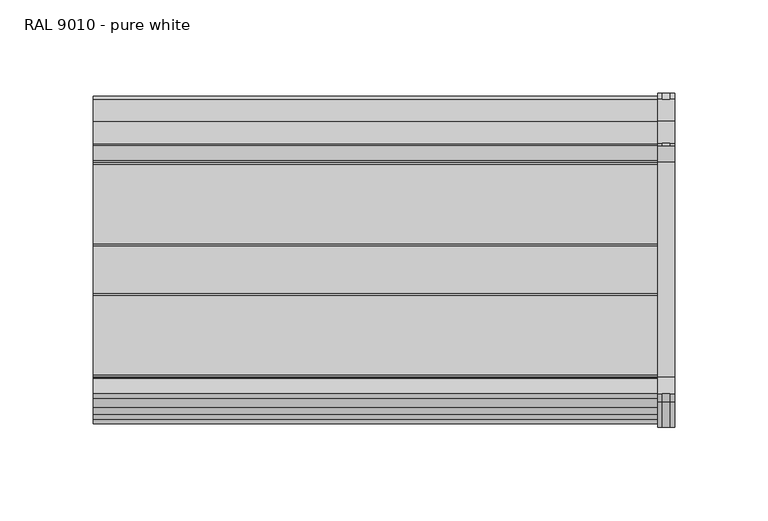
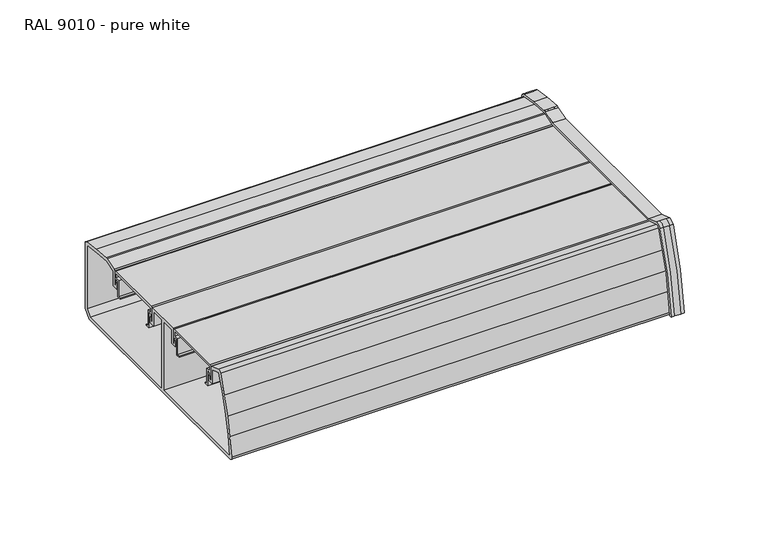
"""IFC4 building model written with IfcOpenShell, lengths in millimetres: proxy geometry, Electrical_Installations_Hager_GBD-Curved-Lid-End-Cap : RAL 9010 - pure white."""

from ifc_helpers import new_model, si_unit, point, frame, frame_2d, origin, place, context, project, spatial, polyline, circle_curve, trimmed, segment, composite_curve, outline, extrude, source, transform, mapped, element, save
from ifc_brep_helpers import plane_surface, cylinder_surface, revolved_surface, advanced_brep


def ral_9010_pure_white_f4a3dc08(model_context):
    return source(origin(), model_context, "Body", "SolidModel", [
        extrude(outline(composite_curve([segment(polyline([(-56.2971023, 12.5), (56.2971023, 12.5)]), True, "CONTINUOUS"), segment(trimmed(circle_curve(frame_2d((56.2971023, 11.6099434)), 0.8900566), [point((56.2971023, 12.5))], [point((57.1568309, 11.840307))], False, "CARTESIAN"), True, "CONTINUOUS"), segment(polyline([(57.1568309, 11.840307), (61.5409562, -4.5214711), (64.3769076, -20.8259828)]), True, "CONTINUOUS"), segment(trimmed(circle_curve(frame_2d((63.389468, -20.9977347)), 1.0022653), [point((64.3769076, -20.8259828))], [point((63.389468, -22.0))], False, "CARTESIAN"), True, "CONTINUOUS"), segment(polyline([(63.389468, -22.0), (-63.389468, -22.0)]), True, "CONTINUOUS"), segment(trimmed(circle_curve(frame_2d((-63.389468, -20.9977347)), 1.0022653), [point((-63.389468, -22.0))], [point((-64.3769076, -20.8259828))], False, "CARTESIAN"), True, "CONTINUOUS"), segment(polyline([(-64.3769076, -20.8259828), (-61.5409562, -4.5214711), (-57.1568309, 11.840307)]), True, "CONTINUOUS"), segment(trimmed(circle_curve(frame_2d((-56.2971023, 11.6099434)), 0.8900566), [point((-57.1568309, 11.840307))], [point((-56.2971023, 12.5))], False, "CARTESIAN"), True, "CONTINUOUS")], self_intersect=False)), frame((308.3503443, 0.0, 0.0), z_axis=(1.0, 0.0, 0.0), x_axis=(0.0, 1.0, 0.0)), (0.0, 0.0, 1.0), 2.5),
        advanced_brep(
        [(304.3659693, 82.4790938, -27.0), (304.3659693, -87.950009, -27.0), (304.3659693, -74.7139057, 28.7218397), (304.3659693, -71.8616711, 30.0629995), (304.3659693, -63.0502646, 27.2), (304.3659693, 52.4374875, 27.2), (304.3659693, 61.1100703, 30.017893), (304.3659693, 62.6440579, 30.1926688), (304.3659693, 74.1080217, 29.1897019), (304.3659693, 85.7835434, 27.4641372), (304.3659693, 87.5716104, 25.3259929), (304.3659693, 87.5716104, -21.9074834), (308.3503443, -87.950009, -27.0), (308.3503443, 82.4790938, -27.0), (308.3503443, 87.5716104, -21.9074834), (308.3503443, 87.5716104, 25.3259929), (308.3503443, 85.7835434, 27.4641372), (308.3503443, 74.1080217, 29.1897019), (308.3503443, 62.6440579, 30.1926688), (308.3503443, 61.1100703, 30.017893), (308.3503443, 52.4374875, 27.2), (308.3503443, -63.0502646, 27.2), (308.3503443, -71.8616711, 30.0629995), (308.3503443, -74.7139057, 28.7218397), (304.3659693, 86.0170743, 28.9997666), (308.3503443, 86.0170743, 28.9997666), (308.3503443, 89.0716104, 25.3713094), (304.3659693, 89.0716104, 25.3713094), (310.8503443, 89.0716104, 25.3713094), (310.8503443, 89.0716104, -22.0), (301.8503443, 89.0716104, -22.0), (301.8503443, 89.0716104, 25.3713094), (310.8503443, 84.0716104, -27.0), (301.8503443, 84.0716104, -27.0), (310.8503443, 82.4790938, -27.0), (310.8503443, -87.950009, -27.0), (310.8503443, -89.4534138, -27.0), (308.3503443, -89.4534138, -27.0), (304.3659693, -89.4534138, -27.0), (301.8503443, -89.4534138, -27.0), (301.8503443, -87.950009, -27.0), (301.8503443, 82.4790938, -27.0), (308.3503443, -76.0707812, 29.3458662), (304.3659693, -76.0707812, 29.3458662), (308.3503443, -71.4543472, 31.5078453), (304.3659693, -71.4543472, 31.5078453), (310.8503443, -71.4543472, 31.5078453), (310.8503443, -62.8126879, 28.7), (301.8503443, -62.8126879, 28.7), (301.8503443, -71.4543472, 31.5078453), (310.8503443, 52.1999109, 28.7), (301.8503443, 52.1999109, 28.7), (310.8503443, 60.8066211, 31.4964897), (308.3503443, 60.8066211, 31.4964897), (304.3659693, 60.8066211, 31.4964897), (301.8503443, 60.8066211, 31.4964897), (308.3503443, 62.4516475, 31.6839168), (304.3659693, 62.4516475, 31.6839168), (310.8503443, 62.4516475, 31.6839168), (310.8503443, 74.2844253, 30.6486828), (301.8503443, 74.2844253, 30.6486828), (301.8503443, 62.4516475, 31.6839168), (301.8503443, 86.0170743, 28.9997666), (310.8503443, 86.0170743, 28.9997666), (301.8503443, 87.5716104, -21.9074834), (301.8503443, 87.5716104, 25.3259929), (301.8503443, 85.7835434, 27.4641372), (301.8503443, 74.1080217, 29.1897019), (301.8503443, 62.6440579, 30.1926688), (301.8503443, 61.1100703, 30.017893), (301.8503443, 52.4374875, 27.2), (301.8503443, -63.0502646, 27.2), (301.8503443, -71.8616711, 30.0629995), (301.8503443, -74.7139057, 28.7218397), (301.8503443, -76.0707812, 29.3458662), (310.8503443, -76.0707812, 29.3458662), (310.8503443, -74.7139057, 28.7218397), (310.8503443, -71.8616711, 30.0629995), (310.8503443, -63.0502646, 27.2), (310.8503443, 52.4374875, 27.2), (310.8503443, 61.1100703, 30.017893), (310.8503443, 62.6440579, 30.1926688), (310.8503443, 74.1080217, 29.1897019), (310.8503443, 85.7835434, 27.4641372), (310.8503443, 87.5716104, 25.3259929), (310.8503443, 87.5716104, -21.9074834)],
        [
            (0, 1),
            (1, 2, circle_curve(frame((304.3659693, 110.3369957, -44.6679083), z_axis=(-1.0, 0.0, 0.0), x_axis=(0.0, 1.0, 0.0)), 199.0725777)),
            (2, 3, circle_curve(frame((304.3659693, -72.5732824, 27.8728851), z_axis=(-1.0, 0.0, 0.0), x_axis=(0.0, 1.0, 0.0)), 2.3028226)),
            (3, 4),
            (4, 5),
            (5, 6),
            (6, 7, circle_curve(frame((304.3659693, 62.3065893, 26.3353861), z_axis=(-1.0, 0.0, 0.0), x_axis=(0.0, 1.0, 0.0)), 3.8720169)),
            (7, 8),
            (8, 9),
            (9, 10, circle_curve(frame((304.3659693, 85.3991961, 25.3259929), z_axis=(-1.0, 0.0, 0.0), x_axis=(0.0, 1.0, 0.0)), 2.1724143)),
            (10, 11),
            (11, 0),
            (12, 13),
            (13, 14),
            (14, 15),
            (15, 16, circle_curve(frame((308.3503443, 85.3991961, 25.3259929), z_axis=(1.0, 0.0, 0.0), x_axis=(0.0, 1.0, 0.0)), 2.1724143)),
            (16, 17),
            (17, 18),
            (18, 19, circle_curve(frame((308.3503443, 62.3065893, 26.3353861), z_axis=(1.0, 0.0, 0.0), x_axis=(0.0, 1.0, 0.0)), 3.8720169)),
            (19, 20),
            (20, 21),
            (21, 22),
            (22, 23, circle_curve(frame((308.3503443, -72.5732824, 27.8728851), z_axis=(1.0, 0.0, 0.0), x_axis=(0.0, 1.0, 0.0)), 2.3028226)),
            (23, 12, circle_curve(frame((308.3503443, 110.3369957, -44.6679083), z_axis=(1.0, 0.0, 0.0), x_axis=(0.0, 1.0, 0.0)), 199.0725777)),
            (24, 25),
            (25, 26, circle_curve(frame((308.3503443, 85.3892358, 25.3713094), z_axis=(-1.0, 0.0, 0.0), x_axis=(0.0, 1.0, 0.0)), 3.6823746)),
            (26, 27),
            (27, 24, circle_curve(frame((304.3659693, 85.3892358, 25.3713094), z_axis=(1.0, 0.0, 0.0), x_axis=(0.0, 1.0, 0.0)), 3.6823746)),
            (26, 28),
            (28, 29),
            (29, 30),
            (30, 31),
            (31, 27),
            (29, 32),
            (32, 33),
            (33, 30),
            (32, 34),
            (34, 13),
            (12, 35),
            (35, 36),
            (36, 37),
            (37, 38),
            (38, 39),
            (39, 40),
            (40, 1),
            (0, 41),
            (41, 33),
            (37, 42, circle_curve(frame((308.3503443, 106.8832578, -43.8694858), z_axis=(-1.0, 0.0, 0.0), x_axis=(0.0, 1.0, 0.0)), 197.0600623)),
            (42, 43),
            (43, 38, circle_curve(frame((304.3659693, 106.8832578, -43.8694858), z_axis=(1.0, 0.0, 0.0), x_axis=(0.0, 1.0, 0.0)), 197.0600623)),
            (42, 44, circle_curve(frame((308.3503443, -72.607181, 27.9597874), z_axis=(-1.0, 0.0, 0.0), x_axis=(0.0, 1.0, 0.0)), 3.7306488)),
            (44, 45),
            (45, 43, circle_curve(frame((304.3659693, -72.607181, 27.9597874), z_axis=(1.0, 0.0, 0.0), x_axis=(0.0, 1.0, 0.0)), 3.7306488)),
            (44, 46),
            (46, 47),
            (47, 48),
            (48, 49),
            (49, 45),
            (47, 50),
            (50, 51),
            (51, 48),
            (50, 52),
            (52, 53),
            (53, 54),
            (54, 55),
            (55, 51),
            (53, 56, circle_curve(frame((308.3503443, 62.0897511, 27.5474216), z_axis=(-1.0, 0.0, 0.0), x_axis=(0.0, 1.0, 0.0)), 4.1522959)),
            (56, 57),
            (57, 54, circle_curve(frame((304.3659693, 62.0897511, 27.5474216), z_axis=(1.0, 0.0, 0.0), x_axis=(0.0, 1.0, 0.0)), 4.1522959)),
            (56, 58),
            (58, 59),
            (59, 60),
            (60, 61),
            (61, 57),
            (24, 62),
            (62, 60),
            (59, 63),
            (63, 25),
            (41, 64),
            (64, 65),
            (65, 66, circle_curve(frame((301.8503443, 85.3991961, 25.3259929), z_axis=(1.0, 0.0, 0.0), x_axis=(0.0, 1.0, 0.0)), 2.1724143)),
            (66, 67),
            (67, 68),
            (68, 69, circle_curve(frame((301.8503443, 62.3065893, 26.3353861), z_axis=(1.0, 0.0, 0.0), x_axis=(0.0, 1.0, 0.0)), 3.8720169)),
            (69, 70),
            (70, 71),
            (71, 72),
            (72, 73, circle_curve(frame((301.8503443, -72.5732824, 27.8728851), z_axis=(1.0, 0.0, 0.0), x_axis=(0.0, 1.0, 0.0)), 2.3028226)),
            (73, 40, circle_curve(frame((301.8503443, 110.3369957, -44.6679083), z_axis=(1.0, 0.0, 0.0), x_axis=(0.0, 1.0, 0.0)), 199.0725777)),
            (39, 74, circle_curve(frame((301.8503443, 106.8832578, -43.8694858), z_axis=(-1.0, 0.0, 0.0), x_axis=(0.0, 1.0, 0.0)), 197.0600623)),
            (74, 49, circle_curve(frame((301.8503443, -72.607181, 27.9597874), z_axis=(-1.0, 0.0, 0.0), x_axis=(0.0, 1.0, 0.0)), 3.7306488)),
            (55, 61, circle_curve(frame((301.8503443, 62.0897511, 27.5474216), z_axis=(-1.0, 0.0, 0.0), x_axis=(0.0, 1.0, 0.0)), 4.1522959)),
            (62, 31, circle_curve(frame((301.8503443, 85.3892358, 25.3713094), z_axis=(-1.0, 0.0, 0.0), x_axis=(0.0, 1.0, 0.0)), 3.6823746)),
            (28, 63, circle_curve(frame((310.8503443, 85.3892358, 25.3713094), z_axis=(1.0, 0.0, 0.0), x_axis=(0.0, 1.0, 0.0)), 3.6823746)),
            (58, 52, circle_curve(frame((310.8503443, 62.0897511, 27.5474216), z_axis=(1.0, 0.0, 0.0), x_axis=(0.0, 1.0, 0.0)), 4.1522959)),
            (46, 75, circle_curve(frame((310.8503443, -72.607181, 27.9597874), z_axis=(1.0, 0.0, 0.0), x_axis=(0.0, 1.0, 0.0)), 3.7306488)),
            (75, 36, circle_curve(frame((310.8503443, 106.8832578, -43.8694858), z_axis=(1.0, 0.0, 0.0), x_axis=(0.0, 1.0, 0.0)), 197.0600623)),
            (35, 76, circle_curve(frame((310.8503443, 110.3369957, -44.6679083), z_axis=(-1.0, 0.0, 0.0), x_axis=(0.0, 1.0, 0.0)), 199.0725777)),
            (76, 77, circle_curve(frame((310.8503443, -72.5732824, 27.8728851), z_axis=(-1.0, 0.0, 0.0), x_axis=(0.0, 1.0, 0.0)), 2.3028226)),
            (77, 78),
            (78, 79),
            (79, 80),
            (80, 81, circle_curve(frame((310.8503443, 62.3065893, 26.3353861), z_axis=(-1.0, 0.0, 0.0), x_axis=(0.0, 1.0, 0.0)), 3.8720169)),
            (81, 82),
            (82, 83),
            (83, 84, circle_curve(frame((310.8503443, 85.3991961, 25.3259929), z_axis=(-1.0, 0.0, 0.0), x_axis=(0.0, 1.0, 0.0)), 2.1724143)),
            (84, 85),
            (85, 34),
            (11, 64),
            (85, 14),
            (10, 65),
            (84, 15),
            (9, 66),
            (83, 16),
            (70, 5),
            (4, 71),
            (78, 21),
            (20, 79),
            (3, 72),
            (77, 22),
            (2, 73),
            (76, 23),
            (43, 74),
            (75, 42),
            (8, 67),
            (82, 17),
            (7, 68),
            (81, 18),
            (6, 69),
            (80, 19),
        ],
        [
            plane_surface(frame((304.3659693, 0.0, 0.0), z_axis=(-1.0, 0.0, 0.0), x_axis=(0.0, 0.0, 1.0))),
            plane_surface(frame((308.3503443, 0.0, 0.0), z_axis=(1.0, 0.0, 0.0), x_axis=(0.0, 0.0, 1.0))),
            cylinder_surface(frame((304.3659693, 85.3892358, 25.3713094), z_axis=(-1.0, 0.0, 0.0), x_axis=(0.0, 1.0, 0.0)), 3.6823746),
            plane_surface(frame((304.3659693, 89.0716104, 25.3713094), z_axis=(0.0, 1.0, 0.0), x_axis=(1.0, 0.0, 0.0))),
            plane_surface(frame((304.3659693, 89.0716104, -22.0), z_axis=(0.0, 0.707106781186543, -0.707106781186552), x_axis=(1.0, 0.0, 0.0))),
            plane_surface(frame((304.3659693, 84.0716104, -27.0), z_axis=(0.0, 0.0, -1.0), x_axis=(1.0, 0.0, 0.0))),
            cylinder_surface(frame((304.3659693, 106.8832578, -43.8694858), z_axis=(-1.0, 0.0, 0.0), x_axis=(0.0, 1.0, 0.0)), 197.0600623),
            cylinder_surface(frame((304.3659693, -72.607181, 27.9597874), z_axis=(-1.0, 0.0, 0.0), x_axis=(0.0, 1.0, 0.0)), 3.7306488),
            plane_surface(frame((304.3659693, -71.4543472, 31.5078453), z_axis=(0.0, 0.30901699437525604, 0.9510565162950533), x_axis=(1.0, 0.0, 0.0))),
            plane_surface(frame((304.3659693, -62.8126879, 28.7), z_axis=(0.0, 0.0, 1.0), x_axis=(1.0, 0.0, 0.0))),
            plane_surface(frame((304.3659693, 52.1999109, 28.7), z_axis=(0.0, -0.30901699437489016, 0.9510565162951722), x_axis=(1.0, 0.0, 0.0))),
            cylinder_surface(frame((304.3659693, 62.0897511, 27.5474216), z_axis=(-1.0, 0.0, 0.0), x_axis=(0.0, 1.0, 0.0)), 4.1522959),
            plane_surface(frame((304.3659693, 62.4516475, 31.6839168), z_axis=(0.0, 0.0871557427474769, 0.9961946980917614), x_axis=(1.0, 0.0, 0.0))),
            plane_surface(frame((304.3659693, 74.2844253, 30.6486828), z_axis=(0.0, 0.1391731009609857, 0.990268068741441), x_axis=(1.0, 0.0, 0.0))),
            plane_surface(frame((301.8503443, 0.0, 0.0), z_axis=(-1.0, 0.0, 0.0), x_axis=(0.0, 0.0, 1.0))),
            plane_surface(frame((310.8503443, 0.0, 0.0), z_axis=(1.0, 0.0, 0.0), x_axis=(0.0, 0.0, 1.0))),
            cylinder_surface(frame((301.8503443, 85.3892358, 25.3713094), z_axis=(-1.0, 0.0, 0.0), x_axis=(0.0, 1.0, 0.0)), 3.6823746),
            plane_surface(frame((301.8503443, 82.4790938, -27.0), z_axis=(0.0, -0.7071067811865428, 0.7071067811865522), x_axis=(1.0, 0.0, 0.0))),
            plane_surface(frame((301.8503443, 87.5716104, -21.9074834), z_axis=(0.0, -1.0, 0.0), x_axis=(1.0, 0.0, 0.0))),
            revolved_surface(polyline([(304.3659693, 87.5716104, 25.3259929), (301.8503443, 87.5716104, 25.3259929)]), (301.8503443, 85.3991961, 25.3259929), (1.0, 0.0, 0.0)),
            revolved_surface(polyline([(310.8503443, 87.5716104, 25.3259929), (308.3503443, 87.5716104, 25.3259929)]), (301.8503443, 85.3991961, 25.3259929), (1.0, 0.0, 0.0)),
            plane_surface(frame((301.8503443, 52.4374875, 27.2), z_axis=(0.0, 0.0, -1.0), x_axis=(1.0, 0.0, 0.0))),
            plane_surface(frame((301.8503443, -63.0502646, 27.2), z_axis=(0.0, -0.3090169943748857, -0.9510565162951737), x_axis=(1.0, 0.0, 0.0))),
            revolved_surface(polyline([(304.3659693, -70.2704598, 27.8728851), (301.8503443, -70.2704598, 27.8728851)]), (301.8503443, -72.5732824, 27.8728851), (1.0, 0.0, 0.0)),
            revolved_surface(polyline([(310.8503443, -70.2704598, 27.8728851), (308.3503443, -70.2704598, 27.8728851)]), (301.8503443, -72.5732824, 27.8728851), (1.0, 0.0, 0.0)),
            revolved_surface(polyline([(304.3659693, 309.4095734, -44.6679083), (301.8503443, 309.4095734, -44.6679083)]), (301.8503443, 110.3369957, -44.6679083), (1.0, 0.0, 0.0)),
            revolved_surface(polyline([(310.8503443, 309.4095734, -44.6679083), (308.3503443, 309.4095734, -44.6679083)]), (301.8503443, 110.3369957, -44.6679083), (1.0, 0.0, 0.0)),
            cylinder_surface(frame((301.8503443, 106.8832578, -43.8694858), z_axis=(-1.0, 0.0, 0.0), x_axis=(0.0, 1.0, 0.0)), 197.0600623),
            cylinder_surface(frame((301.8503443, -72.607181, 27.9597874), z_axis=(-1.0, 0.0, 0.0), x_axis=(0.0, 1.0, 0.0)), 3.7306488),
            plane_surface(frame((301.8503443, 85.7835434, 27.4641372), z_axis=(0.0, -0.1462052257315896, -0.9892542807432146), x_axis=(1.0, 0.0, 0.0))),
            plane_surface(frame((301.8503443, 74.1080217, 29.1897019), z_axis=(0.0, -0.08715574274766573, -0.9961946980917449), x_axis=(1.0, 0.0, 0.0))),
            revolved_surface(polyline([(304.3659693, 66.1786062, 26.3353861), (301.8503443, 66.1786062, 26.3353861)]), (301.8503443, 62.3065893, 26.3353861), (1.0, 0.0, 0.0)),
            revolved_surface(polyline([(310.8503443, 66.1786062, 26.3353861), (308.3503443, 66.1786062, 26.3353861)]), (301.8503443, 62.3065893, 26.3353861), (1.0, 0.0, 0.0)),
            plane_surface(frame((301.8503443, 61.1100703, 30.017893), z_axis=(0.0, 0.3090169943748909, -0.951056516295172), x_axis=(1.0, 0.0, 0.0))),
            cylinder_surface(frame((301.8503443, 62.0897511, 27.5474216), z_axis=(-1.0, 0.0, 0.0), x_axis=(0.0, 1.0, 0.0)), 4.1522959),
        ],
        [
            (0, [[1, 2, 3, 4, 5, 6, 7, 8, 9, 10, 11, 12]]),
            (1, [[13, 14, 15, 16, 17, 18, 19, 20, 21, 22, 23, 24]]),
            (2, [[25, 26, 27, 28]]),
            (3, [[-27, 29, 30, 31, 32, 33]]),
            (4, [[-31, 34, 35, 36]]),
            (5, [[-35, 37, 38, -13, 39, 40, 41, 42, 43, 44, 45, -1, 46, 47]]),
            (6, [[-42, 48, 49, 50]]),
            (7, [[-49, 51, 52, 53]]),
            (8, [[-52, 54, 55, 56, 57, 58]]),
            (9, [[-56, 59, 60, 61]]),
            (10, [[-60, 62, 63, 64, 65, 66]]),
            (11, [[-64, 67, 68, 69]]),
            (12, [[-68, 70, 71, 72, 73, 74]]),
            (13, [[-25, 75, 76, -72, 77, 78]]),
            (14, [[-32, -36, -47, 79, 80, 81, 82, 83, 84, 85, 86, 87, 88, 89, -44, 90, 91, -57, -61, -66, 92, -73, -76, 93]]),
            (15, [[94, -77, -71, 95, -62, -59, -55, 96, 97, -40, 98, 99, 100, 101, 102, 103, 104, 105, 106, 107, 108, -37, -34, -30]]),
            (16, [[-93, -75, -28, -33]]),
            (16, [[-94, -29, -26, -78]]),
            (17, [[-79, -46, -12, 109]]),
            (17, [[-108, 110, -14, -38]]),
            (18, [[-80, -109, -11, 111]]),
            (18, [[-107, 112, -15, -110]]),
            (19, [[-81, -111, -10, 113]]),
            (20, [[-106, 114, -16, -112]]),
            (21, [[-86, 115, -5, 116]]),
            (21, [[-101, 117, -21, 118]]),
            (22, [[-87, -116, -4, 119]]),
            (22, [[-100, 120, -22, -117]]),
            (23, [[-88, -119, -3, 121]]),
            (24, [[-99, 122, -23, -120]]),
            (25, [[-89, -121, -2, -45]]),
            (26, [[-98, -39, -24, -122]]),
            (27, [[-90, -43, -50, 123]]),
            (27, [[-97, 124, -48, -41]]),
            (28, [[-91, -123, -53, -58]]),
            (28, [[-96, -54, -51, -124]]),
            (29, [[-82, -113, -9, 125]]),
            (29, [[-105, 126, -17, -114]]),
            (30, [[-83, -125, -8, 127]]),
            (30, [[-104, 128, -18, -126]]),
            (31, [[-84, -127, -7, 129]]),
            (32, [[-103, 130, -19, -128]]),
            (33, [[-85, -129, -6, -115]]),
            (33, [[-102, -118, -20, -130]]),
            (34, [[-92, -65, -69, -74]]),
            (34, [[-95, -70, -67, -63]]),
        ],
    ),
        extrude(outline(composite_curve([segment(polyline([(-85.2368553, -25.0), (-6.25, -25.0), (-6.25, 25.0), (-15.95, 25.0), (-15.95, 14.96875), (-20.25, 14.96875), (-20.25, 18.7637258), (-19.25, 18.7637258), (-19.25, 16.3), (-17.75, 16.3), (-17.75, 27.0), (7.25, 27.0), (7.25, 16.3), (8.75, 16.3), (8.75, 18.7441115), (9.75, 18.7441115), (9.75, 14.5), (5.45, 14.5), (5.45, 25.0), (-4.25, 25.0), (-4.25, -25.0), (81.2473088, -25.0), (85.2, -21.0473088), (85.2, 25.0790901), (73.4084992, 26.7822965), (61.8792753, 27.7103781), (54.05, 25.1664923), (54.05, 14.5), (49.75, 14.5), (49.75, 18.7391101), (50.75, 18.7391101), (50.75, 16.3), (52.25, 16.3), (52.25, 26.2703589)]), True, "CONTINUOUS"), segment(trimmed(circle_curve(frame_2d((53.2542649, 26.2703589)), 1.0042649), [point((52.25, 26.2703589))], [point((52.94393, 27.2254715))], False, "CARTESIAN"), True, "CONTINUOUS"), segment(polyline([(52.94393, 27.2254715), (61.1647105, 29.896565)]), True, "CONTINUOUS"), segment(trimmed(circle_curve(frame_2d((61.8535718, 27.776468)), 2.229202), [point((61.1647105, 29.896565))], [point((62.0324399, 29.9984823))], False, "CARTESIAN"), True, "CONTINUOUS"), segment(polyline([(62.0324399, 29.9984823), (73.960524, 29.0382932), (85.7542621, 27.3347636)]), True, "CONTINUOUS"), segment(trimmed(circle_curve(frame_2d((85.4630616, 25.3187476)), 2.0369384), [point((85.7542621, 27.3347636))], [point((87.5, 25.3187476))], False, "CARTESIAN"), True, "CONTINUOUS"), segment(polyline([(87.5, 25.3187476), (87.5, -22.0), (82.5, -27.0), (-85.4371356, -27.0)]), True, "CONTINUOUS"), segment(trimmed(circle_curve(frame_2d((-85.4371356, -24.9109785)), 2.0890215), [point((-85.4371356, -27.0))], [point((-87.5045544, -24.6113283))], False, "CARTESIAN"), True, "CONTINUOUS"), segment(polyline([(-87.5045544, -24.6113283), (-85.4928777, -10.7318848), (-82.665273, 2.5001298), (-78.9366987, 15.5032139), (-74.2325269, 28.6175358)]), True, "CONTINUOUS"), segment(trimmed(circle_curve(frame_2d((-72.2816269, 27.9177383)), 2.0726137), [point((-74.2325269, 28.6175358))], [point((-71.641154, 29.8889111))], False, "CARTESIAN"), True, "CONTINUOUS"), segment(polyline([(-71.641154, 29.8889111), (-63.6327057, 27.2868085)]), True, "CONTINUOUS"), segment(trimmed(circle_curve(frame_2d((-63.9575866, 26.286928)), 1.0513366), [point((-63.6327057, 27.2868085))], [point((-62.90625, 26.286928))], False, "CARTESIAN"), True, "CONTINUOUS"), segment(polyline([(-62.90625, 26.286928), (-62.90625, 16.3), (-61.25, 16.3), (-61.25, 18.7177382), (-60.25, 18.7177382), (-60.25, 14.96875), (-64.55, 14.96875), (-64.55, 25.1664923), (-72.1420805, 27.6333088), (-76.7464574, 14.7971958), (-80.4325779, 1.9421659), (-83.2276507, -11.1376133), (-85.2368553, -25.0)]), True, "CONTINUOUS")], self_intersect=False)), frame((0.0, 0.0, 0.0), z_axis=(1.0, 0.0, 0.0), x_axis=(0.0, 1.0, 0.0)), (0.0, 0.0, 1.0), 304.3659693),
        extrude(outline(composite_curve([segment(polyline([(-19.317297, 25.7013932), (-61.217297, 25.7013932), (-61.217297, 22.4013932), (-57.767297, 22.4013932), (-57.767297, 10.8013932), (-55.867297, 10.8013932), (-55.867297, 10.0013932), (-58.767297, 10.0013932), (-58.767297, 21.4013932), (-61.5204385, 21.4013932), (-61.5204385, 17.0930522), (-62.5219845, 17.0930522), (-62.5219845, 26.2097868)]), True, "CONTINUOUS"), segment(trimmed(circle_curve(frame_2d((-61.6120226, 26.2097868)), 0.9099619), [point((-62.5219845, 26.2097868))], [point((-61.6120226, 27.1197487))], False, "CARTESIAN"), True, "CONTINUOUS"), segment(polyline([(-61.6120226, 27.1197487), (-19.1379774, 27.1197487)]), True, "CONTINUOUS"), segment(trimmed(circle_curve(frame_2d((-19.1379774, 26.1115683)), 1.0081804), [point((-19.1379774, 27.1197487))], [point((-18.129797, 26.1115683))], False, "CARTESIAN"), True, "CONTINUOUS"), segment(polyline([(-18.129797, 26.1115683), (-18.129797, 17.0930522), (-19.0141556, 17.0930522), (-19.0141556, 21.4013932), (-21.767297, 21.4013932), (-21.767297, 10.0013932), (-24.667297, 10.0013932), (-24.667297, 10.8013932), (-22.767297, 10.8013932), (-22.767297, 22.4013932), (-19.317297, 22.4013932), (-19.317297, 25.7013932)]), True, "CONTINUOUS")], self_intersect=False)), frame((0.0, 0.0, 0.0), z_axis=(1.0, 0.0, 0.0), x_axis=(0.0, 1.0, 0.0)), (0.0, 0.0, 1.0), 304.3659693),
        extrude(outline(composite_curve([segment(polyline([(50.7405963, 25.7013932), (8.8405963, 25.7013932), (8.8405963, 22.4013932), (12.2905963, 22.4013932), (12.2905963, 10.8013932), (14.1905963, 10.8013932), (14.1905963, 10.0013932), (11.2905963, 10.0013932), (11.2905963, 21.4013932), (8.5374548, 21.4013932), (8.5374548, 17.0930522), (7.5359088, 17.0930522), (7.5359088, 26.2097868)]), True, "CONTINUOUS"), segment(trimmed(circle_curve(frame_2d((8.4458707, 26.2097868)), 0.9099619), [point((7.5359088, 26.2097868))], [point((8.4458707, 27.1197487))], False, "CARTESIAN"), True, "CONTINUOUS"), segment(polyline([(8.4458707, 27.1197487), (50.9199159, 27.1197487)]), True, "CONTINUOUS"), segment(trimmed(circle_curve(frame_2d((50.9199159, 26.1115683)), 1.0081804), [point((50.9199159, 27.1197487))], [point((51.9280963, 26.1115683))], False, "CARTESIAN"), True, "CONTINUOUS"), segment(polyline([(51.9280963, 26.1115683), (51.9280963, 17.0930522), (51.0437378, 17.0930522), (51.0437378, 21.4013932), (48.2905963, 21.4013932), (48.2905963, 10.0013932), (45.3905963, 10.0013932), (45.3905963, 10.8013932), (47.2905963, 10.8013932), (47.2905963, 22.4013932), (50.7405963, 22.4013932), (50.7405963, 25.7013932)]), True, "CONTINUOUS")], self_intersect=False)), frame((0.0, 0.0, 0.0), z_axis=(1.0, 0.0, 0.0), x_axis=(0.0, 1.0, 0.0)), (0.0, 0.0, 1.0), 304.3659693),
    ])


if __name__ == "__main__":
    model = new_model("IFC4")
    model_context = context("Model", 3, world=origin())
    ifc_project = project(units=[si_unit("LENGTHUNIT", "METRE", prefix="MILLI")], contexts=[model_context])
    site = spatial("IfcSite", under=ifc_project)
    building = spatial("IfcBuilding", under=site)
    placement = place(None, origin())
    ral_9010_pure_white_shape = ral_9010_pure_white_f4a3dc08(model_context)
    element("IfcBuildingElementProxy", 1, Name="Electrical_Installations_Hager_GBD-Curved-Lid-End-Cap : RAL 9010 - pure white", ObjectType="Electrical_Installations_Hager_GBD-Curved-Lid-End-Cap : RAL 9010 - pure white", at=placement, inside=building, context=model_context, shape_type="MappedRepresentation", body=[
        mapped(ral_9010_pure_white_shape, transform((0.0, 0.0, 0.0), x_axis=(1.0, 0.0, 0.0), y_axis=(0.0, 1.0, 0.0), z_axis=(0.0, 0.0, 1.0))),
    ])
    save(model, "model.ifc")
